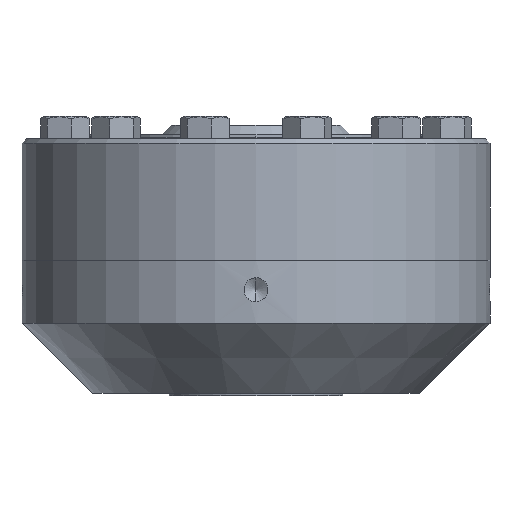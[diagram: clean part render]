
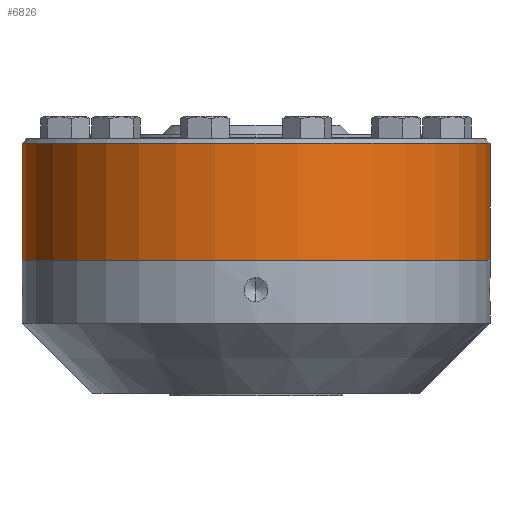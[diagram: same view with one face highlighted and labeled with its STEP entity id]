
A CAD part, left-side view. The second image highlights one B-rep face of the part: STEP entity #6826.
In plain terms, the highlighted cylindrical face has radius 76.975 mm (diameter 153.949 mm), a partial arc.
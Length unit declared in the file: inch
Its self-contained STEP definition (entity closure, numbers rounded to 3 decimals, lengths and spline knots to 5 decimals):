
#116 = EDGE_CURVE ( 'NONE', #12322, #4874, #1457, .T. ) ;
#1110 = EDGE_CURVE ( 'NONE', #12322, #12373, #3945, .T. ) ;
#1457 = LINE ( 'NONE', #1458, #1459 ) ;
#1458 = CARTESIAN_POINT ( 'NONE',  ( 0., -3.0305, -0.235 ) ) ;
#1459 = VECTOR ( 'NONE', #1460, 39.37008 ) ;
#1460 = DIRECTION ( 'NONE',  ( 0., 0., -1. ) ) ;
#3855 = EDGE_CURVE ( 'NONE', #12373, #12277, #6013, .T. ) ;
#3945 = CIRCLE ( 'NONE', #3946, 3.0305 ) ;
#3946 = AXIS2_PLACEMENT_3D ( 'NONE', #3947, #3948, #3949 ) ;
#3947 = CARTESIAN_POINT ( 'NONE',  ( 0., 0., -0.235 ) ) ;
#3948 = DIRECTION ( 'NONE',  ( 0., 0., -1. ) ) ;
#3949 = DIRECTION ( 'NONE',  ( 0., 1., 0. ) ) ;
#4302 = ORIENTED_EDGE ( 'NONE', *, *, #7814, .T. ) ;
#4874 = VERTEX_POINT ( 'NONE', #7021 ) ;
#4880 = ORIENTED_EDGE ( 'NONE', *, *, #3855, .T. ) ;
#5441 = ORIENTED_EDGE ( 'NONE', *, *, #1110, .T. ) ;
#6005 = ORIENTED_EDGE ( 'NONE', *, *, #116, .F. ) ;
#6013 = LINE ( 'NONE', #6014, #6015 ) ;
#6014 = CARTESIAN_POINT ( 'NONE',  ( 0., 3.0305, -0.235 ) ) ;
#6015 = VECTOR ( 'NONE', #6016, 39.37008 ) ;
#6016 = DIRECTION ( 'NONE',  ( 0., 0., -1. ) ) ;
#6570 = EDGE_LOOP ( 'NONE', ( #6005, #5441, #4880, #4302 ) ) ;
#6826 = ADVANCED_FACE ( 'NONE', ( #8560 ), #8561, .T. ) ;
#7021 = CARTESIAN_POINT ( 'NONE',  ( 0., -3.0305, -1.75 ) ) ;
#7022 = CARTESIAN_POINT ( 'NONE',  ( 0., 3.0305, -1.75 ) ) ;
#7271 = CARTESIAN_POINT ( 'NONE',  ( 0., -3.0305, -0.235 ) ) ;
#7520 = CARTESIAN_POINT ( 'NONE',  ( 0., 3.0305, -0.235 ) ) ;
#7814 = EDGE_CURVE ( 'NONE', #12277, #4874, #9072, .T. ) ;
#8560 = FACE_OUTER_BOUND ( 'NONE', #6570, .T. ) ;
#8561 = CYLINDRICAL_SURFACE ( 'NONE', #8562, 3.0305 ) ;
#8562 = AXIS2_PLACEMENT_3D ( 'NONE', #8563, #8564, #8565 ) ;
#8563 = CARTESIAN_POINT ( 'NONE',  ( 0., 0., -0.235 ) ) ;
#8564 = DIRECTION ( 'NONE',  ( 0., 0., -1. ) ) ;
#8565 = DIRECTION ( 'NONE',  ( 0., 1., 0. ) ) ;
#9072 = CIRCLE ( 'NONE', #9073, 3.0305 ) ;
#9073 = AXIS2_PLACEMENT_3D ( 'NONE', #9074, #9075, #9076 ) ;
#9074 = CARTESIAN_POINT ( 'NONE',  ( 0., 0., -1.75 ) ) ;
#9075 = DIRECTION ( 'NONE',  ( 0., 0., 1. ) ) ;
#9076 = DIRECTION ( 'NONE',  ( 0., 1., 0. ) ) ;
#12277 = VERTEX_POINT ( 'NONE', #7022 ) ;
#12322 = VERTEX_POINT ( 'NONE', #7271 ) ;
#12373 = VERTEX_POINT ( 'NONE', #7520 ) ;
